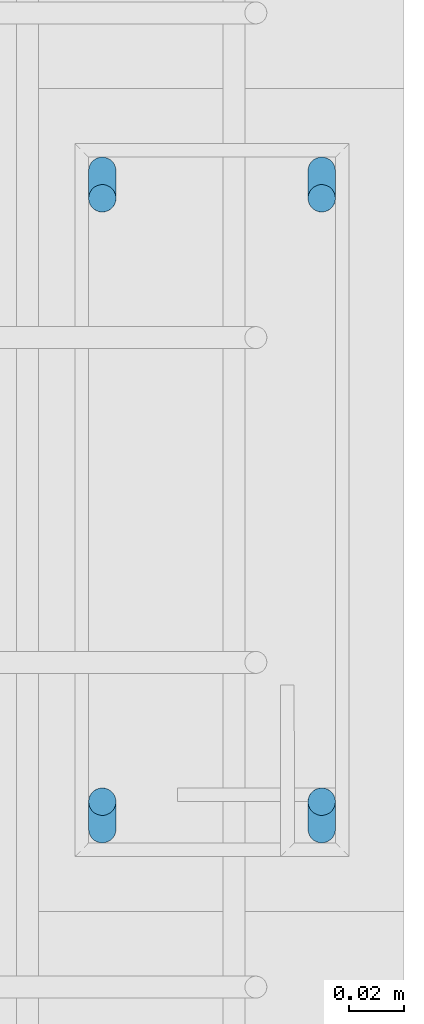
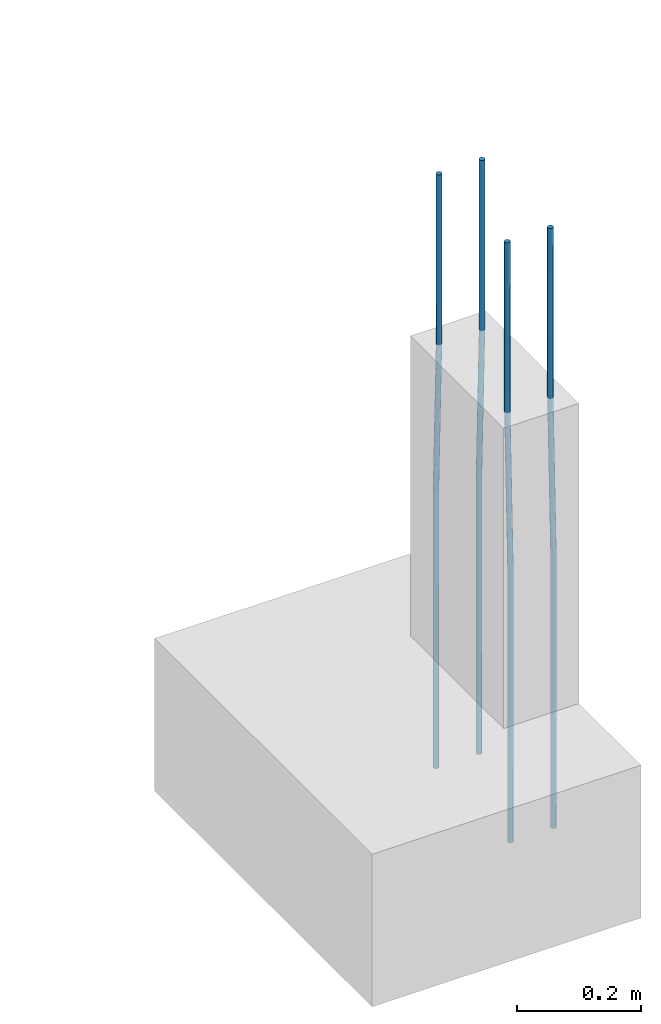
# One storey, part 36 of 119: 4 reinforcing bars.
"""IFC4 building model written with IfcOpenShell, lengths in centimetres."""

from ifc_helpers import new_model, entity, si_unit, derived_unit, frame, origin_with_axes, place, context, project, spatial, element, save


model = new_model("IFC4")

# Units and contexts
model_context = context("Model", 3, precision=1e-05, world=origin_with_axes(), identifier="Body")
ifc_project = project(units=[si_unit("LENGTHUNIT", "METRE", prefix="CENTI"), si_unit("VOLUMEUNIT", "CUBIC_METRE"), si_unit("AREAUNIT", "SQUARE_METRE"), si_unit("POWERUNIT", "WATT"), si_unit("LUMINOUSFLUXUNIT", "LUMEN"), si_unit("ELECTRICCURRENTUNIT", "AMPERE"), si_unit("PRESSUREUNIT", "PASCAL", prefix="KILO"), si_unit("MASSUNIT", "GRAM", prefix="KILO"), si_unit("PLANEANGLEUNIT", "RADIAN"), derived_unit("VOLUMETRICFLOWRATEUNIT", [(si_unit("LENGTHUNIT", "METRE"), 3), (si_unit("TIMEUNIT", "SECOND"), -1)])], contexts=[model_context])

# Site, building, storey
site_placement = place(None, frame((-4000.0, 0.0, 0.0), z_axis=(0.0, 0.0, 1.0), x_axis=(1.0, 0.0, 0.0)))
site = spatial("IfcSite", under=ifc_project, at=site_placement, Name="PADRÃO")
building_placement = place(site_placement, frame((0.0, 0.0, -14.0)))
building = spatial("IfcBuilding", under=site, at=building_placement, Name="CRECHE PRÉ-ESCOLA TIPO 2")
storey_placement = place(building_placement, origin_with_axes())
storey = spatial("IfcBuildingStorey", under=building, at=storey_placement, Name="FUNDAÇÃO", CompositionType="ELEMENT", Elevation=-14.0)

# Reinforcing bars
for number, where, z_axis, x_axis, name in (
    (1, (3996.0, 28.5, 33.3573001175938), (0.0, 0.0, 1.0), (1.0, 0.0, 0.0), "P168 - Longitudinal"),
    (2, (3988.0, 28.5, 33.3573001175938), (0.0, 0.0, 1.0), (1.0, 0.0, 0.0), "P168 - Longitudinal"),
):
    element("IfcReinforcingBar", number, at=place(storey_placement, frame(where, z_axis=z_axis, x_axis=x_axis)), inside=storey, Name=name, BarLength=0.0, CrossSectionArea=7.853981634e-05, NominalDiameter=1.0, PredefinedType="MAIN", context=model_context, shape_type="AdvancedSweptSolid", body=[
        entity("IfcSweptDiskSolid", entity("IfcCompositeCurve", [entity("IfcCompositeCurveSegment", "CONTINUOUS", True, entity("IfcPolyline", [entity("IfcCartesianPoint", [0.0, 0.5, -117.357300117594]), entity("IfcCartesianPoint", [0.0, 0.5, -63.3573001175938])])), entity("IfcCompositeCurveSegment", "CONTINUOUS", True, entity("IfcPolyline", [entity("IfcCartesianPoint", [0.0, 0.5, -63.3573001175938]), entity("IfcCartesianPoint", [0.0, -0.5, -33.3573001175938])])), entity("IfcCompositeCurveSegment", "CONTINUOUS", True, entity("IfcPolyline", [entity("IfcCartesianPoint", [0.0, -0.5, -33.3573001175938]), entity("IfcCartesianPoint", [0.0, -0.5, 0.0])]))], False), 0.5),
    ])
for number, where, z_axis, x_axis, name in (
    (3, (3988.0, 5.5, 33.3573001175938), (0.0, 0.0, 1.0), (1.0, 0.0, 0.0), "P168 - Longitudinal"),
    (4, (3996.0, 5.5, 33.3573001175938), (0.0, 0.0, 1.0), (1.0, 0.0, 0.0), "P168 - Longitudinal"),
):
    element("IfcReinforcingBar", number, at=place(storey_placement, frame(where, z_axis=z_axis, x_axis=x_axis)), inside=storey, Name=name, BarLength=0.0, CrossSectionArea=7.853981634e-05, NominalDiameter=1.0, PredefinedType="MAIN", context=model_context, shape_type="AdvancedSweptSolid", body=[
        entity("IfcSweptDiskSolid", entity("IfcCompositeCurve", [entity("IfcCompositeCurveSegment", "CONTINUOUS", True, entity("IfcPolyline", [entity("IfcCartesianPoint", [0.0, -0.5, -117.357300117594]), entity("IfcCartesianPoint", [0.0, -0.5, -63.3573001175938])])), entity("IfcCompositeCurveSegment", "CONTINUOUS", True, entity("IfcPolyline", [entity("IfcCartesianPoint", [0.0, -0.5, -63.3573001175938]), entity("IfcCartesianPoint", [0.0, 0.5, -33.3573001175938])])), entity("IfcCompositeCurveSegment", "CONTINUOUS", True, entity("IfcPolyline", [entity("IfcCartesianPoint", [0.0, 0.5, -33.3573001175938]), entity("IfcCartesianPoint", [0.0, 0.5, 0.0])]))], False), 0.5),
    ])

save(model, "model.ifc")
